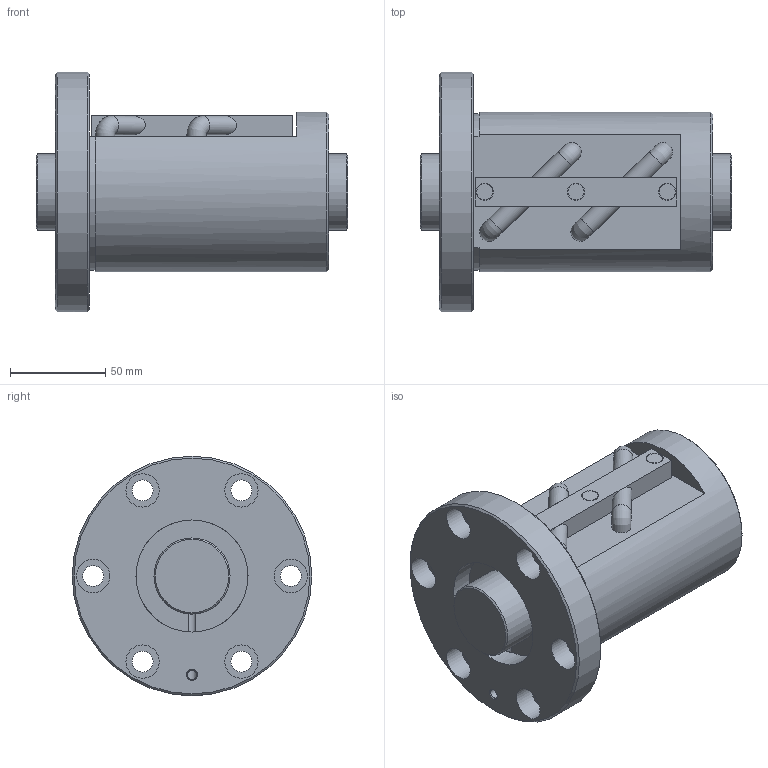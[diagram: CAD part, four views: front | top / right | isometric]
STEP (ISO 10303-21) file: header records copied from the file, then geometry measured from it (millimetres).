
FILE_DESCRIPTION(/* description */ ('STEP AP203'),/* implementation_level */ '2;1');
FILE_NAME(/* name */ 'BIF4016V-5RRG0+164LC0_000',/* time_stamp */ '2024-07-15T08:24:35+02:00',/* author */ ('License CC BY-ND 4.0'),/* organization */ ('CADENAS'),/* preprocessor_version */ 'ST-DEVELOPER v19.3',/* originating_system */ 'PARTsolutions',/* authorisation */ ' ');
FILE_SCHEMA (('CONFIG_CONTROL_DESIGN'));
Length unit declared in the file: millimetre
Products named in the file (3): BIF4016V-5RRG0+164LC0_000; BIF4016V-5RR000 Shaft; BIF4016V-5RR Nut
Assembly tree (2 placements, depth 2):
  BIF4016V-5RRG0+164LC0_000
    BIF4016V-5RR000 Shaft
    BIF4016V-5RR Nut
Bounding box: 164 x 126 x 126 mm (x, y, z)
Volume: 857630.7 mm3; surface area: 115700.7 mm2
Topology: 2 solids, 2 shells, 88 faces, 200 edges, 128 vertices
Faces by surface type: plane 41, cylinder 36, cone 7, torus 4
Full cylindrical faces by diameter (mm): 4.917 x1, 5 x2, 8.5 x3, 9.1 x3, 10.1 x4, 11 x6, 17.5 x6, 40 x2, 59 x2, 84 x1, 126 x1
Entity records: 2392 total; most frequent: CARTESIAN_POINT 460, DIRECTION 420, ORIENTED_EDGE 296, AXIS2_PLACEMENT_3D 192, EDGE_LOOP 163, FACE_BOUND 163, EDGE_CURVE 148, VERTEX_POINT 115
